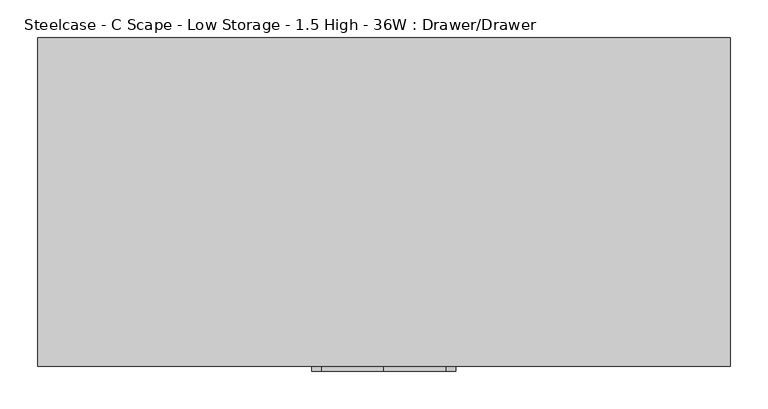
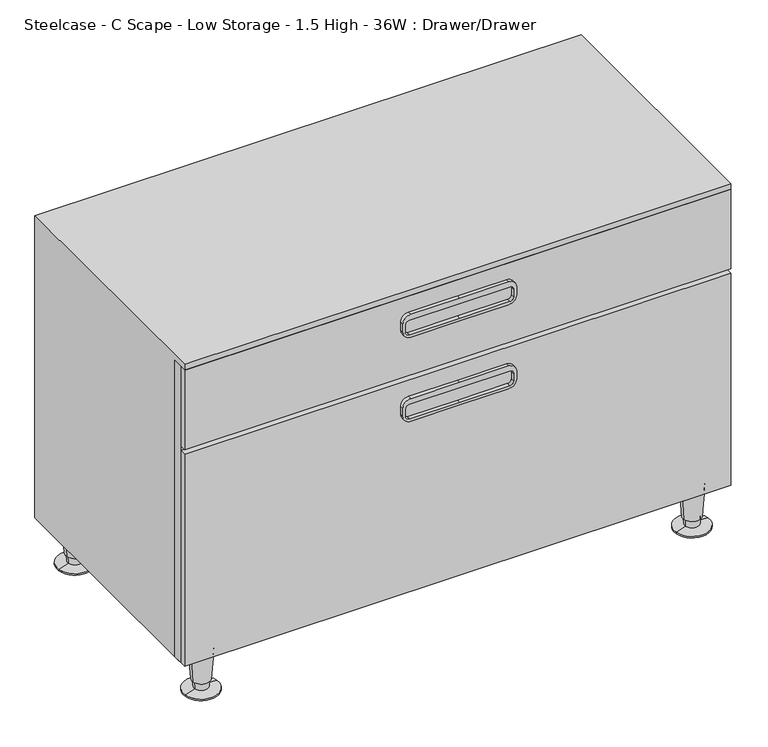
"""IFC4 building model written with IfcOpenShell, lengths in millimetres: furniture geometry, Steelcase - C Scape - Low Storage - 1.5 High - 36W : Drawer/Drawer."""

from ifc_helpers import new_model, si_unit, point, frame, frame_2d, origin, place, context, project, spatial, polyline, circle_curve, trimmed, segment, composite_curve, outline, extrude, faceted_brep, source, transform, mapped, element, save
from ifc_brep_helpers import plane_surface, cylinder_surface, revolved_surface, advanced_brep


def steelcase_c_scape_low_storage_1_5_high_36w_drawer_drawer_937e705b(model_context):
    return source(origin(), model_context, "Body", "SolidModel", [
        extrude(outline(polyline([(76.2, 0.0), (76.2, 913.13), (599.44, 913.13), (599.44, 0.0), (76.2, 0.0)]), holes=[polyline([(458.7875121, 891.1617285), (458.7875121, 21.3382324), (582.93, 21.3382324), (582.93, 891.1617285), (458.7875121, 891.1617285)]), polyline([(92.7100024, 891.1617285), (92.7100024, 21.3382324), (436.8419, 21.3382324), (436.8419, 891.1617285), (92.7100024, 891.1617285)])]), frame((0.0, -421.6443408, 0.0), z_axis=(0.0, 1.0, 0.0), x_axis=(0.0, 0.0, 1.0)), (0.0, 0.0, 1.0), 17.2762904),
        extrude(outline(composite_curve([segment(trimmed(circle_curve(frame_2d((558.165, 374.0147442)), 12.7), [point((570.865, 374.0147442))], [point((558.165, 361.3147442))], False, "CARTESIAN"), True, "CONTINUOUS"), segment(polyline([(558.165, 361.3147442), (543.5600291, 361.3147442)]), True, "CONTINUOUS"), segment(trimmed(circle_curve(frame_2d((543.5600291, 374.0147442)), 12.7), [point((543.5600291, 361.3147442))], [point((530.8600291, 374.0147442))], False, "CARTESIAN"), True, "CONTINUOUS"), segment(polyline([(530.8600291, 374.0147442), (530.8600291, 456.2475), (530.8600291, 538.4802558)]), True, "CONTINUOUS"), segment(trimmed(circle_curve(frame_2d((543.5600291, 538.4802558)), 12.7), [point((530.8600291, 538.4802558))], [point((543.5600291, 551.1802558))], False, "CARTESIAN"), True, "CONTINUOUS"), segment(polyline([(543.5600291, 551.1802558), (558.165, 551.1802558)]), True, "CONTINUOUS"), segment(trimmed(circle_curve(frame_2d((558.165, 538.4802558)), 12.7), [point((558.165, 551.1802558))], [point((570.865, 538.4802558))], False, "CARTESIAN"), True, "CONTINUOUS"), segment(polyline([(570.865, 538.4802558), (570.865, 456.2475), (570.865, 374.0147442)]), True, "CONTINUOUS")], self_intersect=False), holes=[composite_curve([segment(trimmed(circle_curve(frame_2d((554.7360184, 372.4923565)), 6.35), [point((554.7360184, 366.1423565))], [point((561.0860184, 372.4923565))], True, "CARTESIAN"), True, "CONTINUOUS"), segment(polyline([(561.0860184, 372.4923565), (561.0860184, 456.2475), (561.0860184, 540.0026435)]), True, "CONTINUOUS"), segment(trimmed(circle_curve(frame_2d((554.7360184, 540.0026435)), 6.35), [point((561.0860184, 540.0026435))], [point((554.7360184, 546.3526435))], True, "CARTESIAN"), True, "CONTINUOUS"), segment(polyline([(554.7360184, 546.3526435), (542.0360063, 546.3526435)]), True, "CONTINUOUS"), segment(trimmed(circle_curve(frame_2d((542.0360063, 540.0026435)), 6.35), [point((542.0360063, 546.3526435))], [point((535.6860063, 540.0026435))], True, "CARTESIAN"), True, "CONTINUOUS"), segment(polyline([(535.6860063, 540.0026435), (535.6860063, 456.2475), (535.6860063, 372.4923565)]), True, "CONTINUOUS"), segment(trimmed(circle_curve(frame_2d((542.0360063, 372.4923565)), 6.35), [point((535.6860063, 372.4923565))], [point((542.0360063, 366.1423565))], True, "CARTESIAN"), True, "CONTINUOUS"), segment(polyline([(542.0360063, 366.1423565), (554.7360184, 366.1423565)]), True, "CONTINUOUS")], self_intersect=False)]), frame((0.0, -439.42, 0.0), z_axis=(0.0, 1.0, 0.0), x_axis=(0.0, 0.0, 1.0)), (0.0, 0.0, 1.0), 6.35),
        extrude(outline(composite_curve([segment(trimmed(circle_curve(frame_2d((409.5749879, 374.0147442)), 12.7), [point((422.2749879, 374.0147442))], [point((409.5749879, 361.3147442))], False, "CARTESIAN"), True, "CONTINUOUS"), segment(polyline([(409.5749879, 361.3147442), (394.970017, 361.3147442)]), True, "CONTINUOUS"), segment(trimmed(circle_curve(frame_2d((394.970017, 374.0147442)), 12.7), [point((394.970017, 361.3147442))], [point((382.270017, 374.0147442))], False, "CARTESIAN"), True, "CONTINUOUS"), segment(polyline([(382.270017, 374.0147442), (382.270017, 456.2475), (382.270017, 538.4802558)]), True, "CONTINUOUS"), segment(trimmed(circle_curve(frame_2d((394.970017, 538.4802558)), 12.7), [point((382.270017, 538.4802558))], [point((394.970017, 551.1802558))], False, "CARTESIAN"), True, "CONTINUOUS"), segment(polyline([(394.970017, 551.1802558), (409.5749879, 551.1802558)]), True, "CONTINUOUS"), segment(trimmed(circle_curve(frame_2d((409.5749879, 538.4802558)), 12.7), [point((409.5749879, 551.1802558))], [point((422.2749879, 538.4802558))], False, "CARTESIAN"), True, "CONTINUOUS"), segment(polyline([(422.2749879, 538.4802558), (422.2749879, 456.2475), (422.2749879, 374.0147442)]), True, "CONTINUOUS")], self_intersect=False), holes=[composite_curve([segment(trimmed(circle_curve(frame_2d((406.1460063, 372.4923565)), 6.35), [point((406.1460063, 366.1423565))], [point((412.4960063, 372.4923565))], True, "CARTESIAN"), True, "CONTINUOUS"), segment(polyline([(412.4960063, 372.4923565), (412.4960063, 456.2475), (412.4960063, 540.0026435)]), True, "CONTINUOUS"), segment(trimmed(circle_curve(frame_2d((406.1460063, 540.0026435)), 6.35), [point((412.4960063, 540.0026435))], [point((406.1460063, 546.3526435))], True, "CARTESIAN"), True, "CONTINUOUS"), segment(polyline([(406.1460063, 546.3526435), (393.4459942, 546.3526435)]), True, "CONTINUOUS"), segment(trimmed(circle_curve(frame_2d((393.4459942, 540.0026435)), 6.35), [point((393.4459942, 546.3526435))], [point((387.0959942, 540.0026435))], True, "CARTESIAN"), True, "CONTINUOUS"), segment(polyline([(387.0959942, 540.0026435), (387.0959942, 456.2475), (387.0959942, 372.4923565)]), True, "CONTINUOUS"), segment(trimmed(circle_curve(frame_2d((393.4459942, 372.4923565)), 6.35), [point((387.0959942, 372.4923565))], [point((393.4459942, 366.1423565))], True, "CARTESIAN"), True, "CONTINUOUS"), segment(polyline([(393.4459942, 366.1423565), (406.1460063, 366.1423565)]), True, "CONTINUOUS")], self_intersect=False)]), frame((0.0, -439.42, 0.0), z_axis=(0.0, 1.0, 0.0), x_axis=(0.0, 0.0, 1.0)), (0.0, 0.0, 1.0), 6.35),
        advanced_brep(
        [(885.8598695, -31.5218435, 76.2), (848.1981305, -37.2840847, 76.2), (867.029, -34.4029641, 76.2), (881.9095214, -32.1262463, 19.05), (852.1484786, -36.6796819, 19.05), (879.4799345, -32.4979728, 19.05), (854.5780655, -36.3079555, 19.05), (878.791165, -32.6033544, 5.7545598), (855.266835, -36.2025738, 5.7545598), (896.1400485, -29.9489775, 2.5119506), (837.9179515, -38.8569507, 2.5119506), (896.1400485, -29.9489775, 0.0), (837.9179515, -38.8569507, 0.0), (867.029, -34.4029641, 0.0)],
        [
            (0, 1, circle_curve(frame((867.029, -34.4029641, 76.2), z_axis=(0.0, 0.0, 1.0), x_axis=(0.0, -1.0, 0.0)), 19.05)),
            (1, 2),
            (2, 0),
            (1, 0, circle_curve(frame((867.029, -34.4029641, 76.2), z_axis=(0.0, 0.0, 1.0), x_axis=(0.0, -1.0, 0.0)), 19.05)),
            (3, 4, circle_curve(frame((867.029, -34.4029641, 19.05), z_axis=(0.0, 0.0, 1.0), x_axis=(0.0, -1.0, 0.0)), 15.0536827)),
            (4, 1),
            (0, 3),
            (4, 3, circle_curve(frame((867.029, -34.4029641, 19.05), z_axis=(0.0, 0.0, 1.0), x_axis=(0.0, -1.0, 0.0)), 15.0536827)),
            (5, 6, circle_curve(frame((867.029, -34.4029641, 19.05), z_axis=(0.0, 0.0, 1.0), x_axis=(0.0, -1.0, 0.0)), 12.5958232)),
            (6, 4),
            (3, 5),
            (6, 5, circle_curve(frame((867.029, -34.4029641, 19.05), z_axis=(0.0, 0.0, 1.0), x_axis=(0.0, -1.0, 0.0)), 12.5958232)),
            (7, 8, circle_curve(frame((867.029, -34.4029641, 5.7545598), z_axis=(0.0, 0.0, 1.0), x_axis=(0.0, -1.0, 0.0)), 11.8990387)),
            (8, 6),
            (5, 7),
            (8, 7, circle_curve(frame((867.029, -34.4029641, 5.7545598), z_axis=(0.0, 0.0, 1.0), x_axis=(0.0, -1.0, 0.0)), 11.8990387)),
            (9, 10, circle_curve(frame((867.029, -34.4029641, 2.5119506), z_axis=(0.0, 0.0, 1.0), x_axis=(0.0, -1.0, 0.0)), 29.4498071)),
            (10, 8),
            (7, 9),
            (10, 9, circle_curve(frame((867.029, -34.4029641, 2.5119506), z_axis=(0.0, 0.0, 1.0), x_axis=(0.0, -1.0, 0.0)), 29.4498071)),
            (11, 12, circle_curve(frame((867.029, -34.4029641, 0.0), z_axis=(0.0, 0.0, 1.0), x_axis=(0.0, -1.0, 0.0)), 29.4498071)),
            (12, 10),
            (9, 11),
            (12, 11, circle_curve(frame((867.029, -34.4029641, 0.0), z_axis=(0.0, 0.0, 1.0), x_axis=(0.0, -1.0, 0.0)), 29.4498071)),
            (13, 12),
            (11, 13),
        ],
        [
            plane_surface(frame((867.029, -34.4029641, 76.2), z_axis=(0.0, 0.0, 1.0), x_axis=(0.0, -1.0, 0.0))),
            revolved_surface(polyline([(867.029, -53.4529641, 76.2), (867.029, -49.4566468, 19.05)]), (867.029, -34.4029641, 25.4), (0.0, 0.0, -1.0)),
            plane_surface(frame((867.029, -34.4029641, 19.05), z_axis=(0.0, 0.0, -1.0), x_axis=(0.0, -1.0, 0.0))),
            revolved_surface(polyline([(867.029, -46.9987873, 19.05), (867.029, -46.3020028, 5.7545598)]), (867.029, -34.4029641, 25.4), (0.0, 0.0, -1.0)),
            revolved_surface(polyline([(867.029, -46.3020028, 5.7545598), (867.029, -63.8527712, 2.5119506)]), (867.029, -34.4029641, 25.4), (0.0, 0.0, -1.0)),
            cylinder_surface(frame((867.029, -34.4029641, 25.4), z_axis=(0.0, 0.0, -1.0), x_axis=(0.0, -1.0, 0.0)), 29.4498071),
            plane_surface(frame((867.029, -34.4029641, 0.0), z_axis=(0.0, 0.0, -1.0), x_axis=(0.0, -1.0, 0.0))),
        ],
        [
            (0, [[1, 2, 3]]),
            (0, [[4, -3, -2]]),
            (1, [[5, 6, -1, 7]]),
            (1, [[8, -7, -4, -6]]),
            (2, [[9, 10, -5, 11]]),
            (2, [[12, -11, -8, -10]]),
            (3, [[13, 14, -9, 15]]),
            (3, [[16, -15, -12, -14]]),
            (4, [[17, 18, -13, 19]]),
            (4, [[20, -19, -16, -18]]),
            (5, [[21, 22, -17, 23]]),
            (5, [[24, -23, -20, -22]]),
            (6, [[25, -21, 26]]),
            (6, [[-26, -24, -25]]),
        ],
    ),
        advanced_brep(
        [(885.8598695, -397.1702762, 76.2), (848.1981305, -402.9325174, 76.2), (867.029, -400.0513968, 76.2), (881.9095214, -397.774679, 19.05), (852.1484786, -402.3281146, 19.05), (879.4799345, -398.1464055, 19.05), (854.5780655, -401.9563882, 19.05), (878.791165, -398.2517871, 5.7545598), (855.266835, -401.8510065, 5.7545598), (896.1400485, -395.5974102, 2.5119506), (837.9179515, -404.5053834, 2.5119506), (896.1400485, -395.5974102, 0.0), (837.9179515, -404.5053834, 0.0), (867.029, -400.0513968, 0.0)],
        [
            (0, 1, circle_curve(frame((867.029, -400.0513968, 76.2), z_axis=(0.0, 0.0, 1.0), x_axis=(0.0, -1.0, 0.0)), 19.05)),
            (1, 2),
            (2, 0),
            (1, 0, circle_curve(frame((867.029, -400.0513968, 76.2), z_axis=(0.0, 0.0, 1.0), x_axis=(0.0, -1.0, 0.0)), 19.05)),
            (3, 4, circle_curve(frame((867.029, -400.0513968, 19.05), z_axis=(0.0, 0.0, 1.0), x_axis=(0.0, -1.0, 0.0)), 15.0536827)),
            (4, 1),
            (0, 3),
            (4, 3, circle_curve(frame((867.029, -400.0513968, 19.05), z_axis=(0.0, 0.0, 1.0), x_axis=(0.0, -1.0, 0.0)), 15.0536827)),
            (5, 6, circle_curve(frame((867.029, -400.0513968, 19.05), z_axis=(0.0, 0.0, 1.0), x_axis=(0.0, -1.0, 0.0)), 12.5958232)),
            (6, 4),
            (3, 5),
            (6, 5, circle_curve(frame((867.029, -400.0513968, 19.05), z_axis=(0.0, 0.0, 1.0), x_axis=(0.0, -1.0, 0.0)), 12.5958232)),
            (7, 8, circle_curve(frame((867.029, -400.0513968, 5.7545598), z_axis=(0.0, 0.0, 1.0), x_axis=(0.0, -1.0, 0.0)), 11.8990387)),
            (8, 6),
            (5, 7),
            (8, 7, circle_curve(frame((867.029, -400.0513968, 5.7545598), z_axis=(0.0, 0.0, 1.0), x_axis=(0.0, -1.0, 0.0)), 11.8990387)),
            (9, 10, circle_curve(frame((867.029, -400.0513968, 2.5119506), z_axis=(0.0, 0.0, 1.0), x_axis=(0.0, -1.0, 0.0)), 29.4498071)),
            (10, 8),
            (7, 9),
            (10, 9, circle_curve(frame((867.029, -400.0513968, 2.5119506), z_axis=(0.0, 0.0, 1.0), x_axis=(0.0, -1.0, 0.0)), 29.4498071)),
            (11, 12, circle_curve(frame((867.029, -400.0513968, 0.0), z_axis=(0.0, 0.0, 1.0), x_axis=(0.0, -1.0, 0.0)), 29.4498071)),
            (12, 10),
            (9, 11),
            (12, 11, circle_curve(frame((867.029, -400.0513968, 0.0), z_axis=(0.0, 0.0, 1.0), x_axis=(0.0, -1.0, 0.0)), 29.4498071)),
            (13, 12),
            (11, 13),
        ],
        [
            plane_surface(frame((867.029, -400.0513968, 76.2), z_axis=(0.0, 0.0, 1.0), x_axis=(0.0, -1.0, 0.0))),
            revolved_surface(polyline([(867.029, -419.1013968, 76.2), (867.029, -415.1050795, 19.05)]), (867.029, -400.0513968, 25.4), (0.0, 0.0, -1.0)),
            plane_surface(frame((867.029, -400.0513968, 19.05), z_axis=(0.0, 0.0, -1.0), x_axis=(0.0, -1.0, 0.0))),
            revolved_surface(polyline([(867.029, -412.64722, 19.05), (867.029, -411.9504355, 5.7545598)]), (867.029, -400.0513968, 25.4), (0.0, 0.0, -1.0)),
            revolved_surface(polyline([(867.029, -411.9504355, 5.7545598), (867.029, -429.5012039, 2.5119506)]), (867.029, -400.0513968, 25.4), (0.0, 0.0, -1.0)),
            cylinder_surface(frame((867.029, -400.0513968, 25.4), z_axis=(0.0, 0.0, -1.0), x_axis=(0.0, -1.0, 0.0)), 29.4498071),
            plane_surface(frame((867.029, -400.0513968, 0.0), z_axis=(0.0, 0.0, -1.0), x_axis=(0.0, -1.0, 0.0))),
        ],
        [
            (0, [[1, 2, 3]]),
            (0, [[4, -3, -2]]),
            (1, [[5, 6, -1, 7]]),
            (1, [[8, -7, -4, -6]]),
            (2, [[9, 10, -5, 11]]),
            (2, [[12, -11, -8, -10]]),
            (3, [[13, 14, -9, 15]]),
            (3, [[16, -15, -12, -14]]),
            (4, [[17, 18, -13, 19]]),
            (4, [[20, -19, -16, -18]]),
            (5, [[21, 22, -17, 23]]),
            (5, [[24, -23, -20, -22]]),
            (6, [[25, -21, 26]]),
            (6, [[-26, -24, -25]]),
        ],
    ),
        advanced_brep(
        [(65.5422821, -397.1702762, 76.2), (27.8805432, -402.9325174, 76.2), (46.7114126, -400.0513968, 76.2), (61.5919341, -397.774679, 19.05), (31.8308912, -402.3281146, 19.05), (59.1623471, -398.1464055, 19.05), (34.2604781, -401.9563882, 19.05), (58.4735776, -398.2517871, 5.7545598), (34.9492476, -401.8510065, 5.7545598), (75.8224611, -395.5974102, 2.5119506), (17.6003641, -404.5053834, 2.5119506), (75.8224611, -395.5974102, 0.0), (17.6003641, -404.5053834, 0.0), (46.7114126, -400.0513968, 0.0)],
        [
            (0, 1, circle_curve(frame((46.7114126, -400.0513968, 76.2), z_axis=(0.0, 0.0, 1.0), x_axis=(0.0, -1.0, 0.0)), 19.05)),
            (1, 2),
            (2, 0),
            (1, 0, circle_curve(frame((46.7114126, -400.0513968, 76.2), z_axis=(0.0, 0.0, 1.0), x_axis=(0.0, -1.0, 0.0)), 19.05)),
            (3, 4, circle_curve(frame((46.7114126, -400.0513968, 19.05), z_axis=(0.0, 0.0, 1.0), x_axis=(0.0, -1.0, 0.0)), 15.0536827)),
            (4, 1),
            (0, 3),
            (4, 3, circle_curve(frame((46.7114126, -400.0513968, 19.05), z_axis=(0.0, 0.0, 1.0), x_axis=(0.0, -1.0, 0.0)), 15.0536827)),
            (5, 6, circle_curve(frame((46.7114126, -400.0513968, 19.05), z_axis=(0.0, 0.0, 1.0), x_axis=(0.0, -1.0, 0.0)), 12.5958232)),
            (6, 4),
            (3, 5),
            (6, 5, circle_curve(frame((46.7114126, -400.0513968, 19.05), z_axis=(0.0, 0.0, 1.0), x_axis=(0.0, -1.0, 0.0)), 12.5958232)),
            (7, 8, circle_curve(frame((46.7114126, -400.0513968, 5.7545598), z_axis=(0.0, 0.0, 1.0), x_axis=(0.0, -1.0, 0.0)), 11.8990387)),
            (8, 6),
            (5, 7),
            (8, 7, circle_curve(frame((46.7114126, -400.0513968, 5.7545598), z_axis=(0.0, 0.0, 1.0), x_axis=(0.0, -1.0, 0.0)), 11.8990387)),
            (9, 10, circle_curve(frame((46.7114126, -400.0513968, 2.5119506), z_axis=(0.0, 0.0, 1.0), x_axis=(0.0, -1.0, 0.0)), 29.4498071)),
            (10, 8),
            (7, 9),
            (10, 9, circle_curve(frame((46.7114126, -400.0513968, 2.5119506), z_axis=(0.0, 0.0, 1.0), x_axis=(0.0, -1.0, 0.0)), 29.4498071)),
            (11, 12, circle_curve(frame((46.7114126, -400.0513968, 0.0), z_axis=(0.0, 0.0, 1.0), x_axis=(0.0, -1.0, 0.0)), 29.4498071)),
            (12, 10),
            (9, 11),
            (12, 11, circle_curve(frame((46.7114126, -400.0513968, 0.0), z_axis=(0.0, 0.0, 1.0), x_axis=(0.0, -1.0, 0.0)), 29.4498071)),
            (13, 12),
            (11, 13),
        ],
        [
            plane_surface(frame((46.7114126, -400.0513968, 76.2), z_axis=(0.0, 0.0, 1.0), x_axis=(0.0, -1.0, 0.0))),
            revolved_surface(polyline([(46.7114126, -419.1013968, 76.2), (46.7114126, -415.1050795, 19.05)]), (46.7114126, -400.0513968, 25.4), (0.0, 0.0, -1.0)),
            plane_surface(frame((46.7114126, -400.0513968, 19.05), z_axis=(0.0, 0.0, -1.0), x_axis=(0.0, -1.0, 0.0))),
            revolved_surface(polyline([(46.7114126, -412.64722, 19.05), (46.7114126, -411.9504355, 5.7545598)]), (46.7114126, -400.0513968, 25.4), (0.0, 0.0, -1.0)),
            revolved_surface(polyline([(46.7114126, -411.9504355, 5.7545598), (46.7114126, -429.5012039, 2.5119506)]), (46.7114126, -400.0513968, 25.4), (0.0, 0.0, -1.0)),
            cylinder_surface(frame((46.7114126, -400.0513968, 25.4), z_axis=(0.0, 0.0, -1.0), x_axis=(0.0, -1.0, 0.0)), 29.4498071),
            plane_surface(frame((46.7114126, -400.0513968, 0.0), z_axis=(0.0, 0.0, -1.0), x_axis=(0.0, -1.0, 0.0))),
        ],
        [
            (0, [[1, 2, 3]]),
            (0, [[4, -3, -2]]),
            (1, [[5, 6, -1, 7]]),
            (1, [[8, -7, -4, -6]]),
            (2, [[9, 10, -5, 11]]),
            (2, [[12, -11, -8, -10]]),
            (3, [[13, 14, -9, 15]]),
            (3, [[16, -15, -12, -14]]),
            (4, [[17, 18, -13, 19]]),
            (4, [[20, -19, -16, -18]]),
            (5, [[21, 22, -17, 23]]),
            (5, [[24, -23, -20, -22]]),
            (6, [[25, -21, 26]]),
            (6, [[-26, -24, -25]]),
        ],
    ),
        advanced_brep(
        [(65.5422821, -31.5218435, 76.2), (27.8805432, -37.2840847, 76.2), (46.7114126, -34.4029641, 76.2), (61.5919341, -32.1262463, 19.05), (31.8308912, -36.6796819, 19.05), (59.1623471, -32.4979728, 19.05), (34.2604781, -36.3079555, 19.05), (58.4735776, -32.6033544, 5.7545598), (34.9492476, -36.2025738, 5.7545598), (75.8224611, -29.9489775, 2.5119506), (17.6003641, -38.8569507, 2.5119506), (75.8224611, -29.9489775, 0.0), (17.6003641, -38.8569507, 0.0), (46.7114126, -34.4029641, 0.0)],
        [
            (0, 1, circle_curve(frame((46.7114126, -34.4029641, 76.2), z_axis=(0.0, 0.0, 1.0), x_axis=(0.0, -1.0, 0.0)), 19.05)),
            (1, 2),
            (2, 0),
            (1, 0, circle_curve(frame((46.7114126, -34.4029641, 76.2), z_axis=(0.0, 0.0, 1.0), x_axis=(0.0, -1.0, 0.0)), 19.05)),
            (3, 4, circle_curve(frame((46.7114126, -34.4029641, 19.05), z_axis=(0.0, 0.0, 1.0), x_axis=(0.0, -1.0, 0.0)), 15.0536827)),
            (4, 1),
            (0, 3),
            (4, 3, circle_curve(frame((46.7114126, -34.4029641, 19.05), z_axis=(0.0, 0.0, 1.0), x_axis=(0.0, -1.0, 0.0)), 15.0536827)),
            (5, 6, circle_curve(frame((46.7114126, -34.4029641, 19.05), z_axis=(0.0, 0.0, 1.0), x_axis=(0.0, -1.0, 0.0)), 12.5958232)),
            (6, 4),
            (3, 5),
            (6, 5, circle_curve(frame((46.7114126, -34.4029641, 19.05), z_axis=(0.0, 0.0, 1.0), x_axis=(0.0, -1.0, 0.0)), 12.5958232)),
            (7, 8, circle_curve(frame((46.7114126, -34.4029641, 5.7545598), z_axis=(0.0, 0.0, 1.0), x_axis=(0.0, -1.0, 0.0)), 11.8990387)),
            (8, 6),
            (5, 7),
            (8, 7, circle_curve(frame((46.7114126, -34.4029641, 5.7545598), z_axis=(0.0, 0.0, 1.0), x_axis=(0.0, -1.0, 0.0)), 11.8990387)),
            (9, 10, circle_curve(frame((46.7114126, -34.4029641, 2.5119506), z_axis=(0.0, 0.0, 1.0), x_axis=(0.0, -1.0, 0.0)), 29.4498071)),
            (10, 8),
            (7, 9),
            (10, 9, circle_curve(frame((46.7114126, -34.4029641, 2.5119506), z_axis=(0.0, 0.0, 1.0), x_axis=(0.0, -1.0, 0.0)), 29.4498071)),
            (11, 12, circle_curve(frame((46.7114126, -34.4029641, 0.0), z_axis=(0.0, 0.0, 1.0), x_axis=(0.0, -1.0, 0.0)), 29.4498071)),
            (12, 10),
            (9, 11),
            (12, 11, circle_curve(frame((46.7114126, -34.4029641, 0.0), z_axis=(0.0, 0.0, 1.0), x_axis=(0.0, -1.0, 0.0)), 29.4498071)),
            (13, 12),
            (11, 13),
        ],
        [
            plane_surface(frame((46.7114126, -34.4029641, 76.2), z_axis=(0.0, 0.0, 1.0), x_axis=(0.0, -1.0, 0.0))),
            revolved_surface(polyline([(46.7114126, -53.4529641, 76.2), (46.7114126, -49.4566468, 19.05)]), (46.7114126, -34.4029641, 25.4), (0.0, 0.0, -1.0)),
            plane_surface(frame((46.7114126, -34.4029641, 19.05), z_axis=(0.0, 0.0, -1.0), x_axis=(0.0, -1.0, 0.0))),
            revolved_surface(polyline([(46.7114126, -46.9987873, 19.05), (46.7114126, -46.3020028, 5.7545598)]), (46.7114126, -34.4029641, 25.4), (0.0, 0.0, -1.0)),
            revolved_surface(polyline([(46.7114126, -46.3020028, 5.7545598), (46.7114126, -63.8527712, 2.5119506)]), (46.7114126, -34.4029641, 25.4), (0.0, 0.0, -1.0)),
            cylinder_surface(frame((46.7114126, -34.4029641, 25.4), z_axis=(0.0, 0.0, -1.0), x_axis=(0.0, -1.0, 0.0)), 29.4498071),
            plane_surface(frame((46.7114126, -34.4029641, 0.0), z_axis=(0.0, 0.0, -1.0), x_axis=(0.0, -1.0, 0.0))),
        ],
        [
            (0, [[1, 2, 3]]),
            (0, [[4, -3, -2]]),
            (1, [[5, 6, -1, 7]]),
            (1, [[8, -7, -4, -6]]),
            (2, [[9, 10, -5, 11]]),
            (2, [[12, -11, -8, -10]]),
            (3, [[13, 14, -9, 15]]),
            (3, [[16, -15, -12, -14]]),
            (4, [[17, 18, -13, 19]]),
            (4, [[20, -19, -16, -18]]),
            (5, [[21, 22, -17, 23]]),
            (5, [[24, -23, -20, -22]]),
            (6, [[25, -21, 26]]),
            (6, [[-26, -24, -25]]),
        ],
    ),
        extrude(outline(polyline([(913.13, -421.6443408), (913.13, -433.07), (0.0, -433.07), (0.0, -421.6443408), (913.13, -421.6443408)])), frame((0.0, 0.0, 458.7875121), z_axis=(0.0, 0.0, 1.0), x_axis=(1.0, 0.0, 0.0)), (0.0, 0.0, 1.0), 140.6524879),
        faceted_brep([(0.0, 0.0, 609.6), (913.13, 0.0, 609.6), (913.13, 0.0, 76.2), (0.0, 0.0, 76.2), (0.0, -433.07, 609.6), (0.0, -404.3680504, 76.2), (0.0, -404.3680504, 599.44), (0.0, -433.07, 599.44), (21.3382324, -404.3680504, 599.44), (913.13, -404.3680504, 76.2), (913.13, -404.3680504, 599.44), (891.1617285, -404.3680504, 599.44), (891.1617285, -404.3680504, 458.7875121), (21.3382324, -404.3680504, 458.7875121), (891.1617285, -404.3680504, 450.8499879), (891.1617285, -404.3680504, 92.7100024), (21.3382324, -404.3680504, 92.7100024), (21.3382324, -404.3680504, 450.8499879), (21.3382324, -9.525, 599.44), (21.3382324, -9.525, 458.7875121), (21.3382324, -9.525, 92.7100024), (21.3382324, -9.525, 450.8499879), (891.1617285, -9.525, 599.44), (891.1617285, -9.525, 458.7875121), (891.1617285, -9.525, 92.7100024), (891.1617285, -9.525, 450.8499879), (913.13, -433.07, 609.6), (913.13, -433.07, 599.44)], [[[0, 1, 2, 3]], [[4, 0, 3, 5, 6, 7]], [[8, 6, 5, 9, 10, 11, 12, 13], [14, 15, 16, 17]], [[18, 8, 13, 19]], [[17, 16, 20, 21]], [[22, 18, 19, 23]], [[21, 20, 24, 25]], [[11, 22, 23, 12]], [[25, 24, 15, 14]], [[2, 1, 26, 27, 10, 9]], [[1, 0, 4, 26]], [[27, 7, 6, 8, 18, 22, 11, 10]], [[26, 4, 7, 27]], [[13, 12, 23, 19]], [[14, 17, 21, 25]], [[16, 15, 24, 20]], [[2, 9, 5, 3]]]),
        extrude(outline(polyline([(913.13, -404.3680504), (913.13, -433.07), (0.0, -433.07), (0.0, -404.3680504), (913.13, -404.3680504)])), frame((0.0, 0.0, 76.2), z_axis=(0.0, 0.0, 1.0), x_axis=(1.0, 0.0, 0.0)), (0.0, 0.0, 1.0), 374.6499879),
    ])


if __name__ == "__main__":
    model = new_model("IFC4")
    model_context = context("Model", 3, world=origin())
    ifc_project = project(units=[si_unit("LENGTHUNIT", "METRE", prefix="MILLI")], contexts=[model_context])
    site = spatial("IfcSite", under=ifc_project)
    building = spatial("IfcBuilding", under=site)
    placement = place(None, origin())
    steelcase_c_scape_low_storage_1_5_high_36w_drawer_drawer_shape = steelcase_c_scape_low_storage_1_5_high_36w_drawer_drawer_937e705b(model_context)
    element("IfcFurniture", 1, ObjectType="Steelcase - C Scape - Low Storage - 1.5 High - 36W : Drawer/Drawer", at=placement, inside=building, context=model_context, shape_type="MappedRepresentation", body=[
        mapped(steelcase_c_scape_low_storage_1_5_high_36w_drawer_drawer_shape, transform((0.0, 0.0, 0.0), x_axis=(1.0, 0.0, 0.0), y_axis=(0.0, 1.0, 0.0), z_axis=(0.0, 0.0, 1.0))),
    ])
    save(model, "model.ifc")
